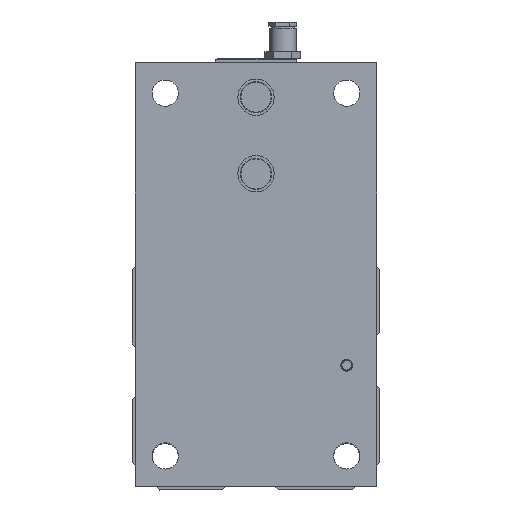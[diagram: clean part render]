
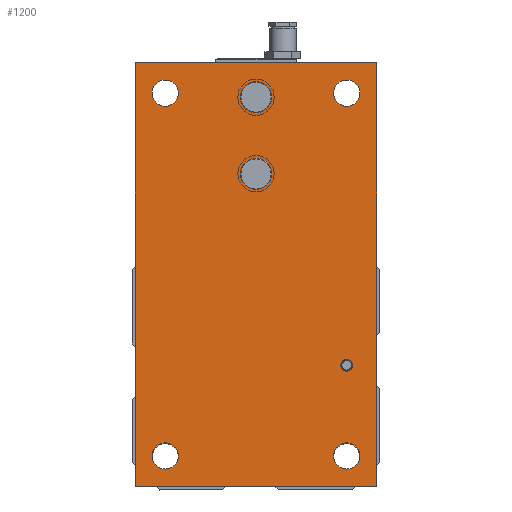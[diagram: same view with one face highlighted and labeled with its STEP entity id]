
A CAD part, front view. The second image highlights one B-rep face of the part: STEP entity #1200.
In plain terms, the highlighted planar face has unit normal (0, -1, 0) as drawn and (0, 0, -1) by its records, which use the part's own axes.
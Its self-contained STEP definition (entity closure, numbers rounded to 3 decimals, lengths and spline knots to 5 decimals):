
#1200=ADVANCED_FACE('0:2879',(#2107,#2108,#2109,#2110,#2111,#2112,#2113,#2114),#2115,.F.);
#2107=FACE_OUTER_BOUND('',#8819,.T.);
#2108=FACE_BOUND('',#8820,.T.);
#2109=FACE_BOUND('',#8821,.T.);
#2110=FACE_BOUND('',#8822,.T.);
#2111=FACE_BOUND('',#8823,.T.);
#2112=FACE_BOUND('',#8824,.T.);
#2113=FACE_BOUND('',#8825,.T.);
#2114=FACE_BOUND('',#8826,.T.);
#2115=PLANE('',#8827);
#8819=EDGE_LOOP('',(#11674,#11675,#11676,#11677));
#8820=EDGE_LOOP('',(#11678,#11679));
#8821=EDGE_LOOP('',(#11680,#11681));
#8822=EDGE_LOOP('',(#11682,#11683));
#8823=EDGE_LOOP('',(#11684,#11685));
#8824=EDGE_LOOP('',(#11686,#11687));
#8825=EDGE_LOOP('',(#11688,#11689));
#8826=EDGE_LOOP('',(#11690,#11691));
#8827=AXIS2_PLACEMENT_3D('',#11692,#11693,#11694);
#11674=ORIENTED_EDGE('',*,*,#13982,.T.);
#11675=ORIENTED_EDGE('',*,*,#13983,.T.);
#11676=ORIENTED_EDGE('',*,*,#13984,.T.);
#11677=ORIENTED_EDGE('',*,*,#13985,.T.);
#11678=ORIENTED_EDGE('',*,*,#13941,.T.);
#11679=ORIENTED_EDGE('',*,*,#13981,.T.);
#11680=ORIENTED_EDGE('',*,*,#13945,.T.);
#11681=ORIENTED_EDGE('',*,*,#13979,.T.);
#11682=ORIENTED_EDGE('',*,*,#13949,.T.);
#11683=ORIENTED_EDGE('',*,*,#13977,.T.);
#11684=ORIENTED_EDGE('',*,*,#13974,.F.);
#11685=ORIENTED_EDGE('',*,*,#13955,.F.);
#11686=ORIENTED_EDGE('',*,*,#13970,.F.);
#11687=ORIENTED_EDGE('',*,*,#13963,.F.);
#11688=ORIENTED_EDGE('',*,*,#13972,.F.);
#11689=ORIENTED_EDGE('',*,*,#13959,.F.);
#11690=ORIENTED_EDGE('',*,*,#13968,.F.);
#11691=ORIENTED_EDGE('',*,*,#13967,.F.);
#11692=CARTESIAN_POINT('',(0.0,0.0,0.0));
#11693=DIRECTION('',(0.0,0.0,1.0));
#11694=DIRECTION('',(1.0,0.0,0.0));
#13941=EDGE_CURVE('0:2936',#15692,#15689,#15693,.T.);
#13945=EDGE_CURVE('0:2930',#15700,#15697,#15701,.T.);
#13949=EDGE_CURVE('0:2924',#15708,#15705,#15709,.F.);
#13955=EDGE_CURVE('0:2915',#15718,#15714,#15720,.F.);
#13959=EDGE_CURVE('0:2909',#15726,#15722,#15728,.F.);
#13963=EDGE_CURVE('0:2903',#15734,#15730,#15736,.F.);
#13967=EDGE_CURVE('0:2897',#15742,#15738,#15744,.F.);
#13968=EDGE_CURVE('0:2897',#15738,#15742,#15745,.F.);
#13970=EDGE_CURVE('0:2903',#15730,#15734,#15747,.F.);
#13972=EDGE_CURVE('0:2909',#15722,#15726,#15749,.F.);
#13974=EDGE_CURVE('0:2915',#15714,#15718,#15751,.F.);
#13977=EDGE_CURVE('0:2924',#15705,#15708,#15754,.F.);
#13979=EDGE_CURVE('0:2930',#15697,#15700,#15756,.T.);
#13981=EDGE_CURVE('0:2936',#15689,#15692,#15758,.T.);
#13982=EDGE_CURVE('0:2939',#15759,#15760,#15761,.T.);
#13983=EDGE_CURVE('0:2942',#15760,#15762,#15763,.T.);
#13984=EDGE_CURVE('0:2945',#15762,#15764,#15765,.T.);
#13985=EDGE_CURVE('0:2948',#15764,#15759,#15766,.T.);
#15689=VERTEX_POINT('',#19260);
#15692=VERTEX_POINT('',#19264);
#15693=CIRCLE('',#19265,0.00775);
#15697=VERTEX_POINT('',#19270);
#15700=VERTEX_POINT('',#19274);
#15701=CIRCLE('',#19275,0.00775);
#15705=VERTEX_POINT('',#19280);
#15708=VERTEX_POINT('',#19284);
#15709=CIRCLE('',#19285,0.0025);
#15714=VERTEX_POINT('',#19291);
#15718=VERTEX_POINT('',#19296);
#15720=CIRCLE('',#19299,0.0065);
#15722=VERTEX_POINT('',#19301);
#15726=VERTEX_POINT('',#19306);
#15728=CIRCLE('',#19309,0.0065);
#15730=VERTEX_POINT('',#19311);
#15734=VERTEX_POINT('',#19316);
#15736=CIRCLE('',#19319,0.0065);
#15738=VERTEX_POINT('',#19321);
#15742=VERTEX_POINT('',#19326);
#15744=CIRCLE('',#19329,0.0065);
#15745=CIRCLE('',#19330,0.0065);
#15747=CIRCLE('',#19332,0.0065);
#15749=CIRCLE('',#19334,0.0065);
#15751=CIRCLE('',#19336,0.0065);
#15754=CIRCLE('',#19339,0.0025);
#15756=CIRCLE('',#19341,0.00775);
#15758=CIRCLE('',#19343,0.00775);
#15759=VERTEX_POINT('',#19344);
#15760=VERTEX_POINT('',#19345);
#15761=LINE('',#19346,#19347);
#15762=VERTEX_POINT('',#19348);
#15763=LINE('',#19349,#19350);
#15764=VERTEX_POINT('',#19351);
#15765=LINE('',#19352,#19353);
#15766=LINE('',#19354,#19355);
#19260=CARTESIAN_POINT('',(-0.05775,0.,0.0));
#19264=CARTESIAN_POINT('',(-0.04225,0.,0.0));
#19265=AXIS2_PLACEMENT_3D('',#21777,#21778,#21779);
#19270=CARTESIAN_POINT('',(-0.09575,0.,0.0));
#19274=CARTESIAN_POINT('',(-0.08025,0.,0.0));
#19275=AXIS2_PLACEMENT_3D('',#21785,#21786,#21787);
#19280=CARTESIAN_POINT('',(0.0425,-0.045,0.0));
#19284=CARTESIAN_POINT('',(0.0475,-0.045,0.0));
#19285=AXIS2_PLACEMENT_3D('',#21793,#21794,#21795);
#19291=CARTESIAN_POINT('',(0.0965,-0.045,0.0));
#19296=CARTESIAN_POINT('',(0.0835,-0.045,0.0));
#19299=AXIS2_PLACEMENT_3D('',#21805,#21806,#21807);
#19301=CARTESIAN_POINT('',(-0.0835,-0.045,0.0));
#19306=CARTESIAN_POINT('',(-0.0965,-0.045,0.0));
#19309=AXIS2_PLACEMENT_3D('',#21813,#21814,#21815);
#19311=CARTESIAN_POINT('',(-0.0835,0.045,0.0));
#19316=CARTESIAN_POINT('',(-0.0965,0.045,0.0));
#19319=AXIS2_PLACEMENT_3D('',#21821,#21822,#21823);
#19321=CARTESIAN_POINT('',(0.0965,0.045,0.0));
#19326=CARTESIAN_POINT('',(0.0835,0.045,0.0));
#19329=AXIS2_PLACEMENT_3D('',#21829,#21830,#21831);
#19330=AXIS2_PLACEMENT_3D('',#21832,#21833,#21834);
#19332=AXIS2_PLACEMENT_3D('',#21838,#21839,#21840);
#19334=AXIS2_PLACEMENT_3D('',#21844,#21845,#21846);
#19336=AXIS2_PLACEMENT_3D('',#21850,#21851,#21852);
#19339=AXIS2_PLACEMENT_3D('',#21859,#21860,#21861);
#19341=AXIS2_PLACEMENT_3D('',#21865,#21866,#21867);
#19343=AXIS2_PLACEMENT_3D('',#21871,#21872,#21873);
#19344=CARTESIAN_POINT('',(-0.105,-0.06,0.0));
#19345=CARTESIAN_POINT('',(-0.105,0.06,0.0));
#19346=CARTESIAN_POINT('',(-0.105,0.0,0.0));
#19347=VECTOR('',#21874,1.0);
#19348=CARTESIAN_POINT('',(0.105,0.06,0.0));
#19349=CARTESIAN_POINT('',(-0.08,0.06,0.0));
#19350=VECTOR('',#21875,1.0);
#19351=CARTESIAN_POINT('',(0.105,-0.06,0.0));
#19352=CARTESIAN_POINT('',(0.105,0.0,0.0));
#19353=VECTOR('',#21876,1.0);
#19354=CARTESIAN_POINT('',(0.08,-0.06,0.0));
#19355=VECTOR('',#21877,1.0);
#21777=CARTESIAN_POINT('',(-0.05,0.0,0.0));
#21778=DIRECTION('',(0.0,0.0,1.0));
#21779=DIRECTION('',(-1.0,0.0,0.0));
#21785=CARTESIAN_POINT('',(-0.088,0.0,0.0));
#21786=DIRECTION('',(0.0,0.0,1.0));
#21787=DIRECTION('',(-1.0,0.0,0.0));
#21793=CARTESIAN_POINT('',(0.045,-0.045,0.0));
#21794=DIRECTION('',(0.0,0.0,-1.0));
#21795=DIRECTION('',(-1.0,0.0,0.0));
#21805=CARTESIAN_POINT('',(0.09,-0.045,0.0));
#21806=DIRECTION('',(0.0,0.0,1.0));
#21807=DIRECTION('',(1.0,0.0,0.0));
#21813=CARTESIAN_POINT('',(-0.09,-0.045,0.0));
#21814=DIRECTION('',(0.0,0.0,1.0));
#21815=DIRECTION('',(1.0,0.0,0.0));
#21821=CARTESIAN_POINT('',(-0.09,0.045,0.0));
#21822=DIRECTION('',(0.0,0.0,1.0));
#21823=DIRECTION('',(1.0,0.0,0.0));
#21829=CARTESIAN_POINT('',(0.09,0.045,0.0));
#21830=DIRECTION('',(0.0,0.0,1.0));
#21831=DIRECTION('',(1.0,0.0,0.0));
#21832=CARTESIAN_POINT('',(0.09,0.045,0.0));
#21833=DIRECTION('',(0.0,0.0,1.0));
#21834=DIRECTION('',(1.0,0.0,0.0));
#21838=CARTESIAN_POINT('',(-0.09,0.045,0.0));
#21839=DIRECTION('',(0.0,0.0,1.0));
#21840=DIRECTION('',(1.0,0.0,0.0));
#21844=CARTESIAN_POINT('',(-0.09,-0.045,0.0));
#21845=DIRECTION('',(0.0,0.0,1.0));
#21846=DIRECTION('',(1.0,0.0,0.0));
#21850=CARTESIAN_POINT('',(0.09,-0.045,0.0));
#21851=DIRECTION('',(0.0,0.0,1.0));
#21852=DIRECTION('',(1.0,0.0,0.0));
#21859=CARTESIAN_POINT('',(0.045,-0.045,0.0));
#21860=DIRECTION('',(0.0,0.0,-1.0));
#21861=DIRECTION('',(-1.0,0.0,0.0));
#21865=CARTESIAN_POINT('',(-0.088,0.0,0.0));
#21866=DIRECTION('',(0.0,0.0,1.0));
#21867=DIRECTION('',(-1.0,0.0,0.0));
#21871=CARTESIAN_POINT('',(-0.05,0.0,0.0));
#21872=DIRECTION('',(0.0,0.0,1.0));
#21873=DIRECTION('',(-1.0,0.0,0.0));
#21874=DIRECTION('',(0.0,1.0,-0.0));
#21875=DIRECTION('',(1.0,0.0,0.0));
#21876=DIRECTION('',(0.0,-1.0,0.0));
#21877=DIRECTION('',(-1.0,0.0,0.0));
